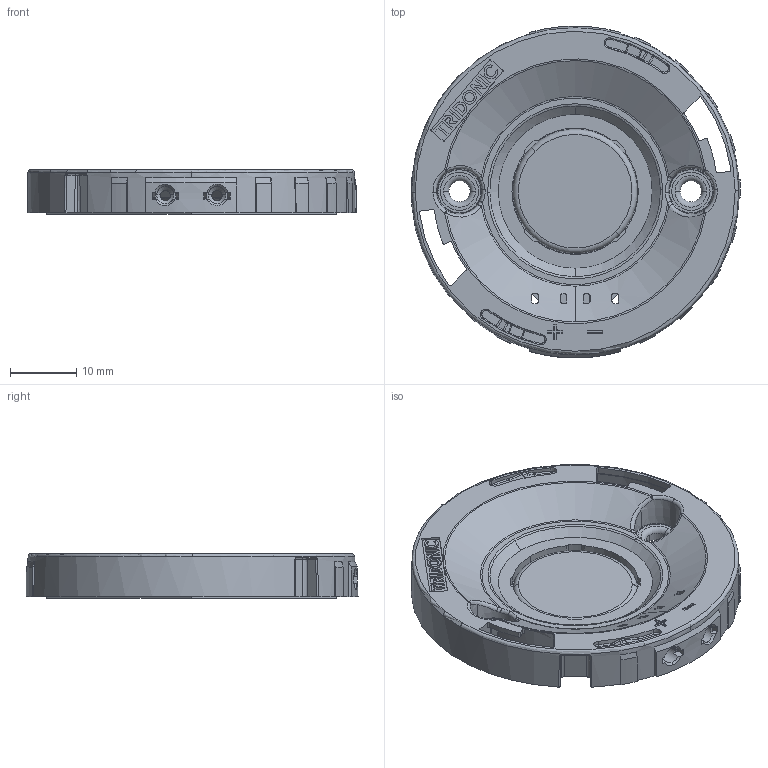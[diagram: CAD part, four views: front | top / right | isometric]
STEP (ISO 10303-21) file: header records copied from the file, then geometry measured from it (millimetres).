
FILE_DESCRIPTION((''),'2;1');
FILE_NAME('16208815_SLE-G7-LES17-HOUSING','2018-11-20T13:22:34',('bernhard.fink'),(''),'CREO PARAMETRIC BY PTC INC, 2017380','CREO PARAMETRIC BY PTC INC, 2017380','');
FILE_SCHEMA(('AUTOMOTIVE_DESIGN { 1 0 10303 214 1 1 1 1 }'));
Length unit declared in the file: millimetre
Products named in the file (3): 16208815_SLE-G7-LES17-HOUSING; 16208814_SLE-G7-LES17-MODUL
Assembly tree (2 placements, depth 2):
  16208815_SLE-G7-LES17-HOUSING
    16208815_SLE-G7-LES17-HOUSING
    16208814_SLE-G7-LES17-MODUL
Bounding box: 49.75 x 50.2 x 6.8 mm (x, y, z)
Volume: 4160.3 mm3; surface area: 9386.2 mm2
Topology: 2 solids, 2 shells, 1898 faces, 5005 edges, 2980 vertices
Faces by surface type: cylinder 619, plane 404, bspline 318, torus 229, sphere 159, cone 152, extrusion 17
Entity records: 122649 total; most frequent: CARTESIAN_POINT 50986, ORIENTED_EDGE 9700, DIRECTION 8102, PRESENTATION_STYLE_ASSIGNMENT 6747, STYLED_ITEM 4869, CURVE_STYLE 4867, EDGE_CURVE 4850, AXIS2_PLACEMENT_3D 3273
